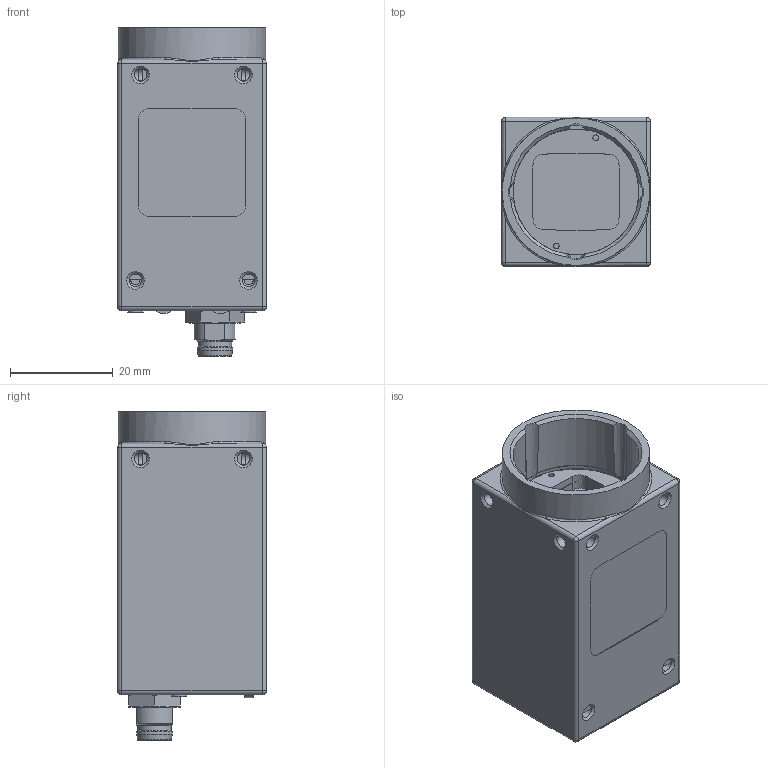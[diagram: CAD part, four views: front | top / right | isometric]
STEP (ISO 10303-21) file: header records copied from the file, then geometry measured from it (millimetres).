
FILE_DESCRIPTION(/* description */ ('Unknown'),/* implementation_level */ '2;1');
FILE_NAME(/* name */ '11702161_VCXG-241M',/* time_stamp */ '2021-06-21T16:18:02+02:00',/* author */ ('Unknown'),/* organization */ ('Baumer'),/* preprocessor_version */ 'ST-DEVELOPER v16.7',/* originating_system */ 'Solid Edge',/* authorisation */ 'Unknown');
FILE_SCHEMA (('AUTOMOTIVE_DESIGN {1 0 10303 214 3 1 1}'));
Length unit declared in the file: millimetre
Products named in the file (1): D0001009209-DBG VCXG-241M STEP
Bounding box: 29 x 29 x 64 mm (x, y, z)
Volume: 34710.3 mm3; surface area: 16288.1 mm2
Topology: 2 solids, 6 shells, 1275 faces, 3535 edges, 2253 vertices
Faces by surface type: plane 696, cylinder 369, cone 128, torus 32, sphere 26, bspline 24
Full cylindrical faces by diameter (mm): 0.6 x8, 1.075 x2, 1.1 x2, 1.4 x4, 1.567 x4, 1.6 x2, 1.9 x4, 2.459 x8, 3 x4, 6.5 x1, 6.9 x1, 8.4 x1, 9.4 x1, 26 x1, 28.7 x1
Entity records: 49203 total; most frequent: CARTESIAN_POINT 8482, ORIENTED_EDGE 6702, DIRECTION 6501, EDGE_CURVE 3351, AXIS2_PLACEMENT_3D 2239, VERTEX_POINT 2191, LINE 2023, VECTOR 2023
